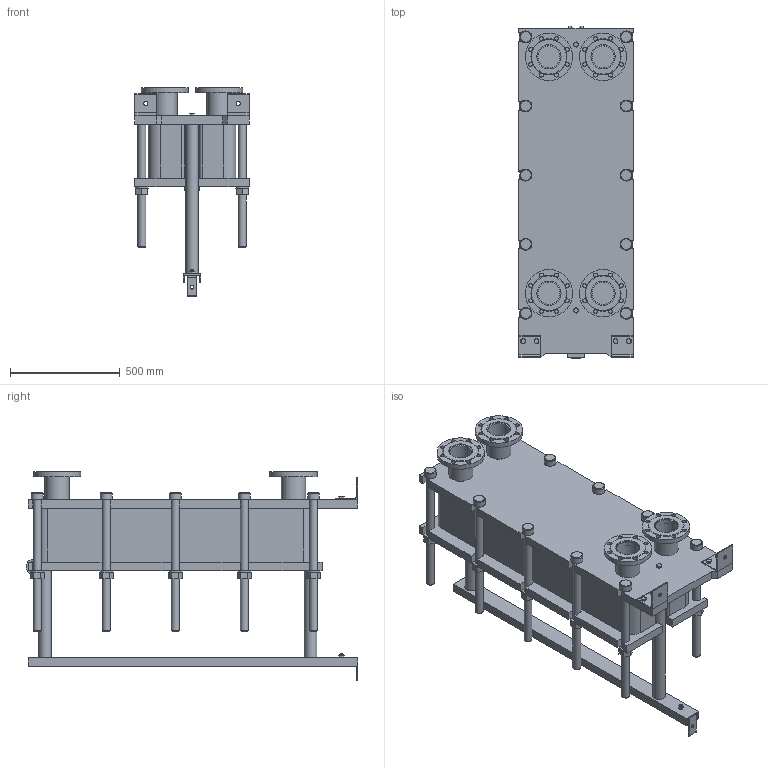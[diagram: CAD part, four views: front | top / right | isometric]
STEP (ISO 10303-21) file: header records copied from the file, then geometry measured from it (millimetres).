
FILE_DESCRIPTION(/* description */ (''),/* implementation_level */ '2;1');
FILE_NAME(/* name */ 'C:\Users\zhuro\Desktop\ENCO\TO\ЭН-04\ЭН-0,5-04-71-1.stp',/* time_stamp */ '2022-06-06T10:50:47+03:00',/* author */ ('zhuro'),/* organization */ (''),/* preprocessor_version */ 'ST-DEVELOPER v18.1',/* originating_system */ 'Autodesk Inventor 2022',/* authorisation */ '');
FILE_SCHEMA (('AUTOMOTIVE_DESIGN { 1 0 10303 214 3 1 1 }'));
Length unit declared in the file: millimetre
Products named in the file (1): ЭН-0,5-04-71-1
Bounding box: 520 x 1510 x 955.5 mm (x, y, z)
Volume: 192059981.5 mm3; surface area: 7717549.2 mm2
Topology: 45 solids, 45 shells, 668 faces, 1611 edges, 1048 vertices
Faces by surface type: plane 457, cylinder 166, cone 39, torus 6
Full cylindrical faces by diameter (mm): 8 x4, 10 x2, 16 x8, 18 x35, 36 x25, 40 x2, 42 x1, 45 x4, 54 x10, 57 x2, 60 x10, 68 x2, 100 x4, 110 x8, 215 x4
Entity records: 23607 total; most frequent: CARTESIAN_POINT 7348, DIRECTION 3371, ORIENTED_EDGE 3142, EDGE_CURVE 1571, AXIS2_PLACEMENT_3D 1199, VERTEX_POINT 1044, LINE 973, VECTOR 973
